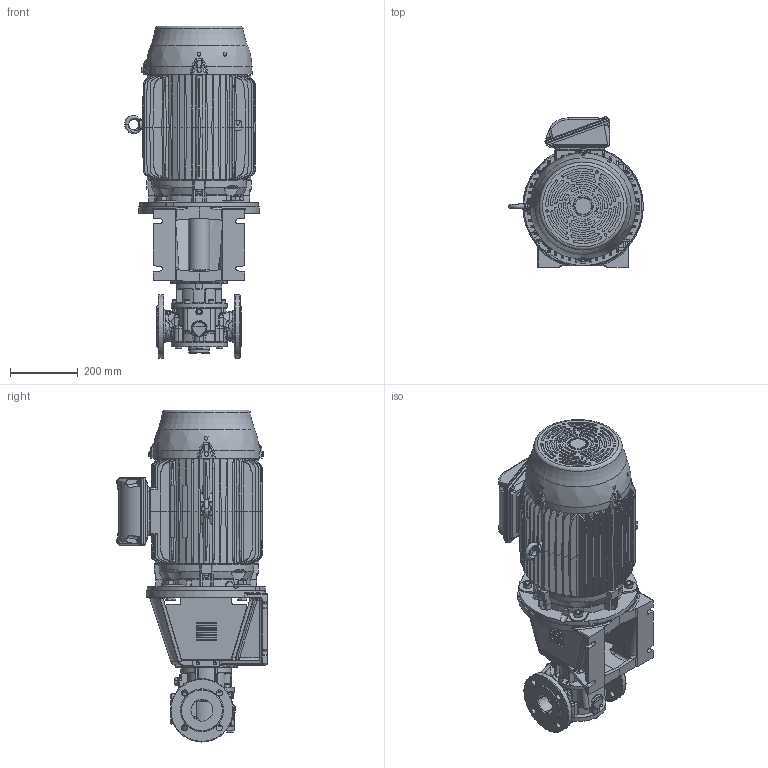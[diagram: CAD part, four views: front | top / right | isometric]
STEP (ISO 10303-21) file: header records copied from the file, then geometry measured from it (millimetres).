
FILE_DESCRIPTION(/* description */ (''),/* implementation_level */ '2;1');
FILE_NAME(/* name */ 'C:\V\JPP\Designs\GEAR PUMPS\PRODUCT ENGINEERING\EUROPE\TG BLOC\TG BLOC_23-65_R5_O_NRV-_160L-STEP.stp',/* time_stamp */ '2021-03-18T15:08:29+01:00',/* author */ ('A77THR'),/* organization */ (''),/* preprocessor_version */ 'ST-DEVELOPER v18.1',/* originating_system */ 'Autodesk Inventor 2020',/* authorisation */ '');
FILE_SCHEMA (('AUTOMOTIVE_DESIGN { 1 0 10303 214 3 1 1 }'));
Length unit declared in the file: millimetre
Products named in the file (1): TG BLOC_23-65_R5_O_NRV-_160L
Bounding box: 397.99 x 444.6 x 980.4 mm (x, y, z)
Volume: 47300730.9 mm3; surface area: 2446567.9 mm2
Topology: 1 solids, 1 shells, 4861 faces, 12715 edges, 7985 vertices
Faces by surface type: plane 1905, bspline 1147, cylinder 1083, cone 539, torus 145, sphere 42
Full cylindrical faces by diameter (mm): 4 x1, 4.5 x8, 4.917 x8, 5.459 x14, 6 x14, 6.647 x1, 7 x18, 7.5 x3, 8 x13, 8.376 x5, 8.5 x2, 8.7 x14, 9.188 x4, 9.4 x1, 10 x12, 10.5 x1, 11.445 x2, 11.5 x4, 11.6 x7, 12 x3, 12.5 x3, 13 x4, 14 x1, 15.011 x3, 15.4 x10, 16 x6, 17.9 x3, 18 x11, 19 x3, 21 x2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
Entity records: 210903 total; most frequent: CARTESIAN_POINT 95116, ORIENTED_EDGE 25158, DIRECTION 20940, EDGE_CURVE 12579, AXIS2_PLACEMENT_3D 8101, VERTEX_POINT 7985, EDGE_LOOP 5254, FACE_OUTER_BOUND 4861
